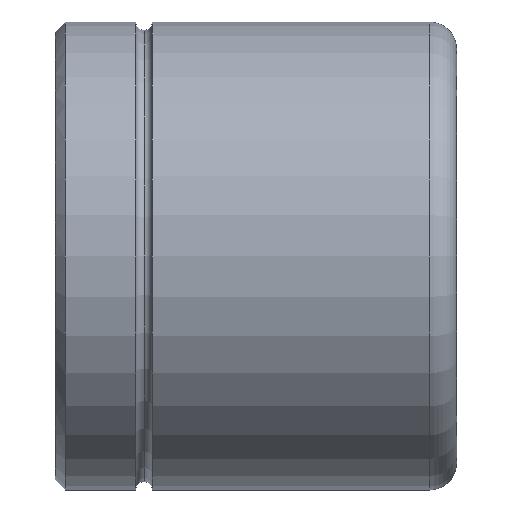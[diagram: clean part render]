
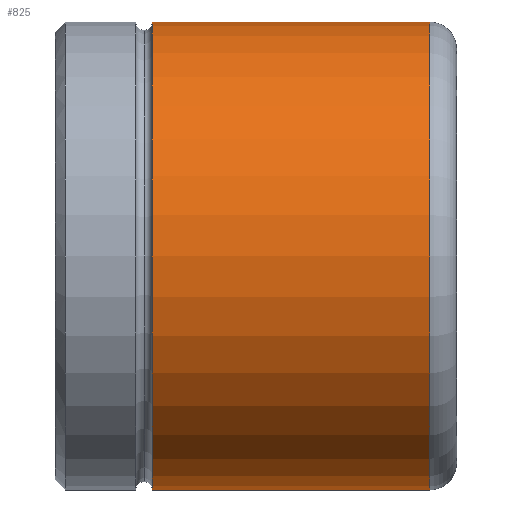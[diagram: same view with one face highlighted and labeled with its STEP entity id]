
A CAD part, front view. The second image highlights one B-rep face of the part: STEP entity #825.
In plain terms, the highlighted cylindrical face has radius 35 mm (diameter 70 mm), a partial arc.
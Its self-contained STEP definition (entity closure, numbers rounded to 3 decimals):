
#641=CARTESIAN_POINT('Vertex',(14.5,0.,35.)) ;
#648=CARTESIAN_POINT('Vertex',(14.5,0.,-35.)) ;
#674=CARTESIAN_POINT('Axis2P3D Location',(14.5,0.,0.)) ;
#678=CARTESIAN_POINT('Vertex',(14.5,-35.,0.)) ;
#681=CARTESIAN_POINT('Axis2P3D Location',(14.5,0.,0.)) ;
#765=CARTESIAN_POINT('Line Origine',(60.,0.,35.)) ;
#769=CARTESIAN_POINT('Vertex',(56.,0.,35.)) ;
#783=CARTESIAN_POINT('Vertex',(56.,0.,-35.)) ;
#786=CARTESIAN_POINT('Line Origine',(60.,0.,-35.)) ;
#800=CARTESIAN_POINT('Axis2P3D Location',(60.,0.,0.)) ;
#805=CARTESIAN_POINT('Axis2P3D Location',(56.,0.,0.)) ;
#809=CARTESIAN_POINT('Vertex',(56.,-35.,0.)) ;
#812=CARTESIAN_POINT('Axis2P3D Location',(56.,0.,0.)) ;
#675=DIRECTION('Axis2P3D Direction',(1.,0.,-0.)) ;
#682=DIRECTION('Axis2P3D Direction',(1.,0.,-0.)) ;
#766=DIRECTION('Vector Direction',(-1.,0.,0.)) ;
#787=DIRECTION('Vector Direction',(-1.,0.,0.)) ;
#801=DIRECTION('Axis2P3D Direction',(-1.,-0.,-0.)) ;
#802=DIRECTION('Axis2P3D XDirection',(0.,0.,-1.)) ;
#806=DIRECTION('Axis2P3D Direction',(-1.,-0.,-0.)) ;
#813=DIRECTION('Axis2P3D Direction',(-1.,-0.,-0.)) ;
#676=AXIS2_PLACEMENT_3D('Circle Axis2P3D',#674,#675,$) ;
#683=AXIS2_PLACEMENT_3D('Circle Axis2P3D',#681,#682,$) ;
#803=AXIS2_PLACEMENT_3D('Cylinder Axis2P3D',#800,#801,#802) ;
#807=AXIS2_PLACEMENT_3D('Circle Axis2P3D',#805,#806,$) ;
#814=AXIS2_PLACEMENT_3D('Circle Axis2P3D',#812,#813,$) ;
#818=ORIENTED_EDGE('',*,*,#790,.T.) ;
#819=ORIENTED_EDGE('',*,*,#811,.F.) ;
#820=ORIENTED_EDGE('',*,*,#816,.F.) ;
#821=ORIENTED_EDGE('',*,*,#771,.T.) ;
#822=ORIENTED_EDGE('',*,*,#685,.T.) ;
#823=ORIENTED_EDGE('',*,*,#680,.T.) ;
#767=VECTOR('Line Direction',#766,1.) ;
#788=VECTOR('Line Direction',#787,1.) ;
#825=ADVANCED_FACE('347-50 x 60',(#824),#804,.T.) ;
#677=CIRCLE('generated circle',#676,35.) ;
#684=CIRCLE('generated circle',#683,35.) ;
#808=CIRCLE('generated circle',#807,35.) ;
#815=CIRCLE('generated circle',#814,35.) ;
#804=CYLINDRICAL_SURFACE('generated cylinder',#803,35.) ;
#680=EDGE_CURVE('',#679,#649,#677,.T.) ;
#685=EDGE_CURVE('',#642,#679,#684,.T.) ;
#771=EDGE_CURVE('',#770,#642,#768,.T.) ;
#790=EDGE_CURVE('',#649,#784,#789,.F.) ;
#811=EDGE_CURVE('',#810,#784,#808,.F.) ;
#816=EDGE_CURVE('',#770,#810,#815,.F.) ;
#817=EDGE_LOOP('',(#818,#819,#820,#821,#822,#823)) ;
#824=FACE_OUTER_BOUND('',#817,.T.) ;
#768=LINE('Line',#765,#767) ;
#789=LINE('Line',#786,#788) ;
#642=VERTEX_POINT('',#641) ;
#649=VERTEX_POINT('',#648) ;
#679=VERTEX_POINT('',#678) ;
#770=VERTEX_POINT('',#769) ;
#784=VERTEX_POINT('',#783) ;
#810=VERTEX_POINT('',#809) ;
